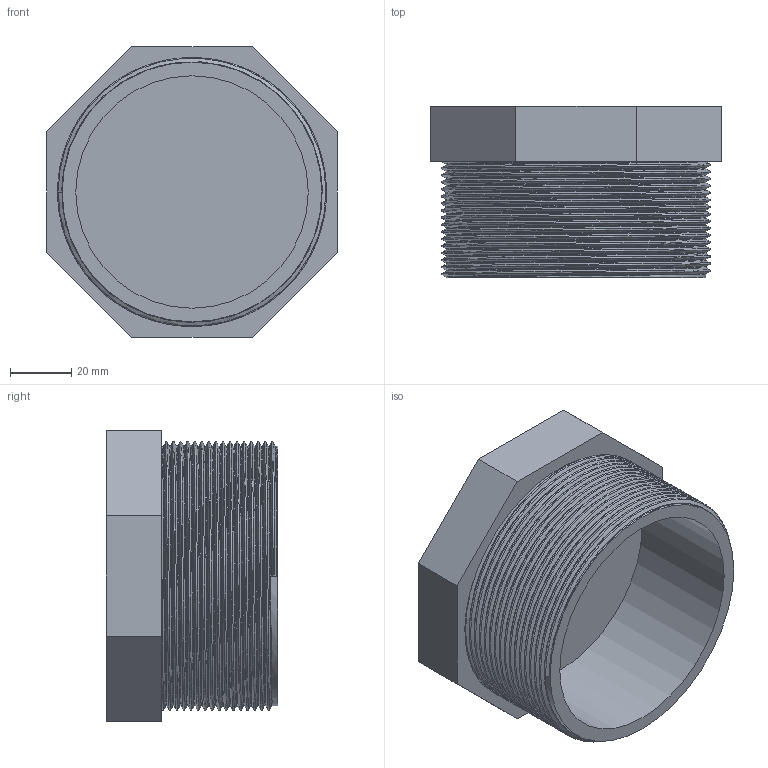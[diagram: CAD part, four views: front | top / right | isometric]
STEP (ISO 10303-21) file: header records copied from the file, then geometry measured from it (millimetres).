
FILE_DESCRIPTION(/* description */ ('PVC tappo filettato BSP maschio'),/* implementation_level */ '2;1');
FILE_NAME(/* name */ 'C:\Users\POLYPIPE\Desktop\DATASET INVENTOR\LIBRERIA EFFAST\RACCORDI 3DxWEB\RER\3D_RERTAE\3D_RERTAE090I.stp',/* time_stamp */ '2018-01-19T17:18:38+01:00',/* author */ ('POLYPIPE'),/* organization */ ('Polypipe Italia s.r.l.'),/* preprocessor_version */ 'ST-DEVELOPER v16.1',/* originating_system */ 'Autodesk Inventor 2016',/* authorisation */ '');
FILE_SCHEMA (('CONFIG_CONTROL_DESIGN'));
Length unit declared in the file: millimetre
Products named in the file (1): 3D_RERTAE
Bounding box: 95 x 56 x 95 mm (x, y, z)
Volume: 184774 mm3; surface area: 46917.4 mm2
Topology: 1 solids, 1 shells, 20 faces, 45 edges, 29 vertices
Faces by surface type: plane 13, bspline 5, cylinder 2
Full cylindrical faces by diameter (mm): 76 x1, 84.926 x1
Entity records: 6948 total; most frequent: CARTESIAN_POINT 6509, ORIENTED_EDGE 88, DIRECTION 71, EDGE_CURVE 44, VERTEX_POINT 29, LINE 27, VECTOR 27, EDGE_LOOP 23
